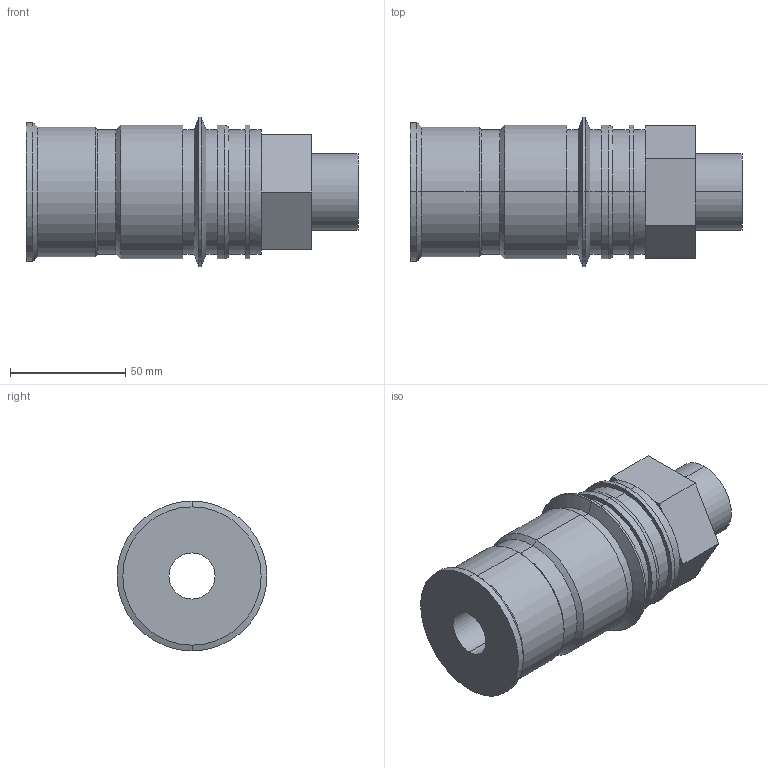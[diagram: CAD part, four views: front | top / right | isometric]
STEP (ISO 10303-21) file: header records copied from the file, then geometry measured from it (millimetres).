
FILE_DESCRIPTION (( 'STEP AP214' ), '1' );
FILE_NAME ('BR601.25 EGB 33.STEP', '2020-12-02T13:36:26', ( '' ), ( '' ), 'SwSTEP 2.0', 'SolidWorks 2018', '' );
FILE_SCHEMA (( 'AUTOMOTIVE_DESIGN' ));
Length unit declared in the file: millimetre
Products named in the file (1): BR601.25 EGB 33
Bounding box: 144 x 64.99 x 64.99 mm (x, y, z)
Volume: 275229.2 mm3; surface area: 41054.8 mm2
Topology: 1 solids, 1 shells, 64 faces, 134 edges, 78 vertices
Faces by surface type: cylinder 26, plane 26, cone 12
Entity records: 1730 total; most frequent: DIRECTION 330, CARTESIAN_POINT 277, ORIENTED_EDGE 268, EDGE_CURVE 134, AXIS2_PLACEMENT_3D 131, VERTEX_POINT 78, EDGE_LOOP 72, LINE 68
